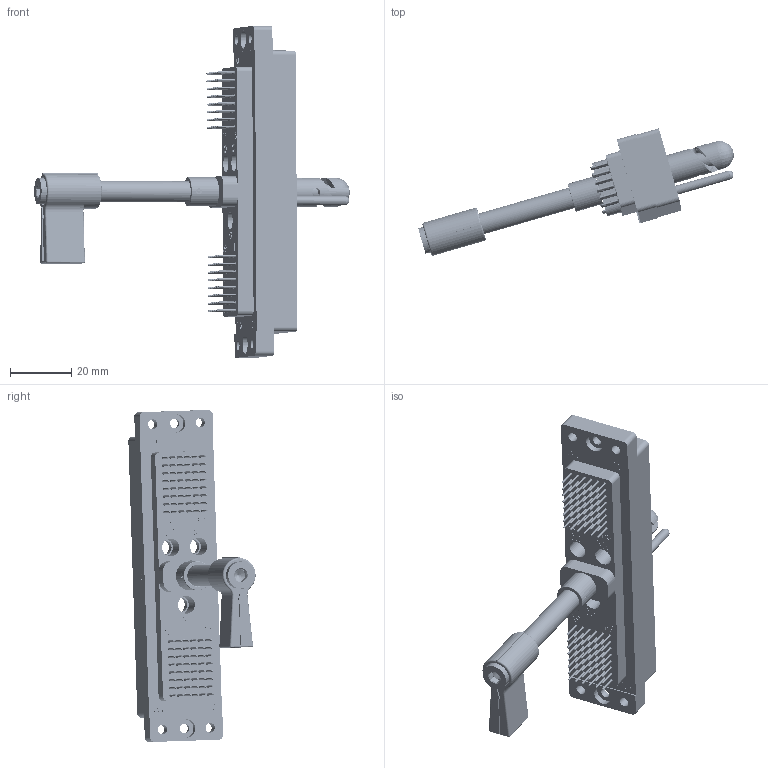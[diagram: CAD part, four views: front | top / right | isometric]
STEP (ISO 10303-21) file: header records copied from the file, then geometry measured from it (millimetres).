
FILE_DESCRIPTION((''),'2;1');
FILE_NAME('C:\old_Drawings\shrinkwrapped website .stp files\5512722-STP.stp','2011-10-27T13:45:33',('GaryRobinson'),(''),'Autodesk Inventor 2011','Autodesk Inventor 2011','');
FILE_SCHEMA(('AUTOMOTIVE_DESIGN { 1 0 10303 214 1 1 1 1 }'));
Length unit declared in the file: inch
Products named in the file (1): 5512722-STP
Bounding box: 103.4 x 41.67 x 108.76 mm (x, y, z)
Surface area: 29069 mm2 (no closed solid volume)
Topology: 0 solids, 107 shells, 2143 faces, 4529 edges, 2744 vertices
Faces by surface type: plane 880, cylinder 686, torus 204, sphere 199, bspline 162, cone 12
Full cylindrical faces by diameter (mm): 0.002 x1, 0.635 x192, 1.575 x96, 1.905 x192, 2.159 x96, 2.642 x1, 2.946 x1, 3 x1, 3.175 x6, 3.505 x1, 4.343 x1, 4.851 x3, 5.4 x1, 5.486 x1, 5.791 x6, 6 x2, 6.685 x1, 6.985 x2, 6.998 x1, 7.036 x1, 7.3 x1, 8.712 x1, 9.2 x1, 9.52 x1, 9.525 x1
Entity records: 53592 total; most frequent: CARTESIAN_POINT 11427, DIRECTION 8330, ORIENTED_EDGE 6214, AXIS2_PLACEMENT_3D 3602, EDGE_LOOP 3522, EDGE_CURVE 3107, VERTEX_POINT 2533, FACE_OUTER_BOUND 2142
